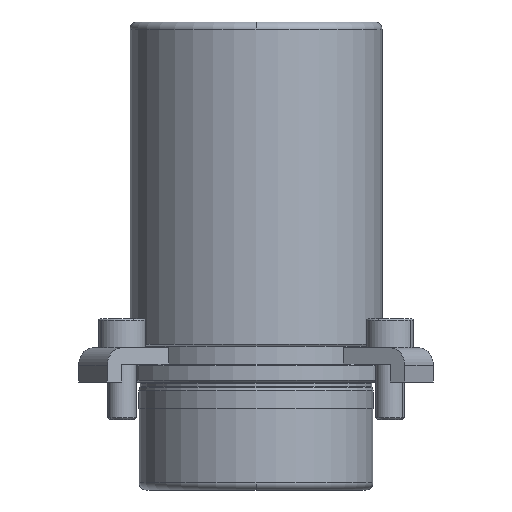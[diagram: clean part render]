
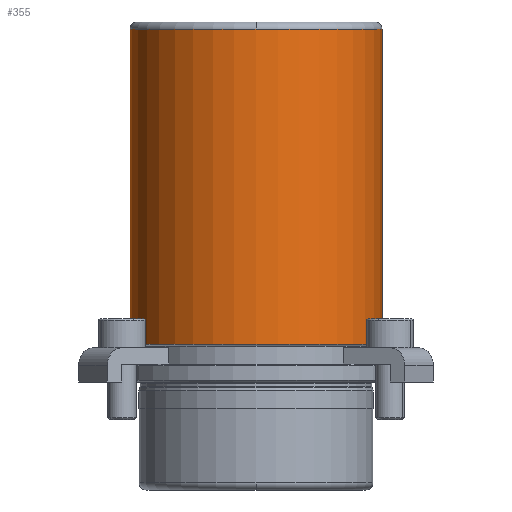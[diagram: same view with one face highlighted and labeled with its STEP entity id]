
A CAD part, front view. The second image highlights one B-rep face of the part: STEP entity #355.
In plain terms, the highlighted cylindrical face has radius 35 mm (diameter 70 mm), a partial arc.
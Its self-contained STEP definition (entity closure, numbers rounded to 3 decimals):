
#269=CARTESIAN_POINT('',(0.0,-35.,98.));
#270=VERTEX_POINT('',#269);
#296=CARTESIAN_POINT('',(-35.0,0.,98.0));
#297=VERTEX_POINT('',#296);
#305=CARTESIAN_POINT('',(0.0,0.,98.0));
#306=DIRECTION('',(0.0,0.0,1.0));
#307=DIRECTION('',(1.0,0.0,0.0));
#308=AXIS2_PLACEMENT_3D('',#305,#306,#307);
#309=CIRCLE('',#308,35.0);
#310=EDGE_CURVE('',#297,#270,#309,.T.);
#315=CARTESIAN_POINT('',(0.0,0.,54.25));
#316=DIRECTION('',(0.0,0.,1.0));
#317=DIRECTION('',(1.0,0.0,0.0));
#318=AXIS2_PLACEMENT_3D('',#315,#316,#317);
#319=CYLINDRICAL_SURFACE('',#318,35.0);
#320=CARTESIAN_POINT('',(35.0,0.,98.0));
#321=VERTEX_POINT('',#320);
#322=CARTESIAN_POINT('',(35.0,0.,10.5));
#323=VERTEX_POINT('',#322);
#324=CARTESIAN_POINT('',(35.0,0.,98.0));
#325=DIRECTION('',(0.0,0.0,-1.0));
#326=VECTOR('',#325,87.5);
#327=LINE('',#324,#326);
#328=EDGE_CURVE('',#321,#323,#327,.T.);
#329=ORIENTED_EDGE('',*,*,#328,.F.);
#330=CARTESIAN_POINT('',(0.0,0.,98.0));
#331=DIRECTION('',(0.0,0.0,1.0));
#332=DIRECTION('',(1.0,0.0,0.0));
#333=AXIS2_PLACEMENT_3D('',#330,#331,#332);
#334=CIRCLE('',#333,35.0);
#335=EDGE_CURVE('',#270,#321,#334,.T.);
#336=ORIENTED_EDGE('',*,*,#335,.F.);
#337=ORIENTED_EDGE('',*,*,#310,.F.);
#338=CARTESIAN_POINT('',(-35.0,0.,10.5));
#339=VERTEX_POINT('',#338);
#340=CARTESIAN_POINT('',(-35.0,0.,98.0));
#341=DIRECTION('',(0.0,0.0,-1.0));
#342=VECTOR('',#341,87.5);
#343=LINE('',#340,#342);
#344=EDGE_CURVE('',#297,#339,#343,.T.);
#345=ORIENTED_EDGE('',*,*,#344,.T.);
#346=CARTESIAN_POINT('',(0.0,0.,10.5));
#347=DIRECTION('',(0.0,0.0,1.0));
#348=DIRECTION('',(1.0,0.0,0.0));
#349=AXIS2_PLACEMENT_3D('',#346,#347,#348);
#350=CIRCLE('',#349,35.0);
#351=EDGE_CURVE('',#339,#323,#350,.T.);
#352=ORIENTED_EDGE('',*,*,#351,.T.);
#353=EDGE_LOOP('',(#329,#336,#337,#345,#352));
#354=FACE_OUTER_BOUND('',#353,.T.);
#355=ADVANCED_FACE('',(#354),#319,.T.);
